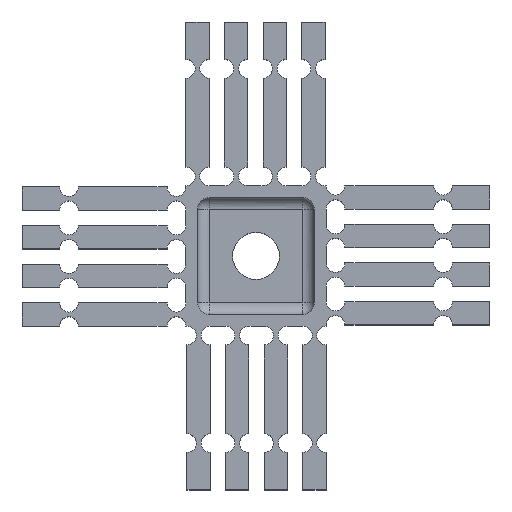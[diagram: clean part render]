
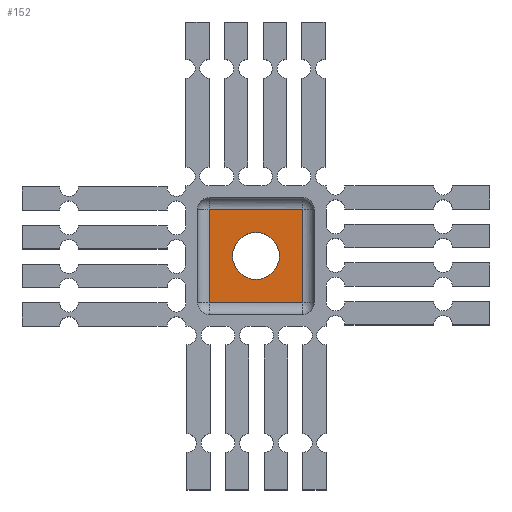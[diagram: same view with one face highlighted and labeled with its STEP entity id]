
A CAD part, top view. The second image highlights one B-rep face of the part: STEP entity #152.
In plain terms, the highlighted planar face has unit normal (0, 0, 1).
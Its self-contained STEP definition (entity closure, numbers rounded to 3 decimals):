
#70=CARTESIAN_POINT('Vertex',(-5.,0.,2.5)) ;
#73=CARTESIAN_POINT('Axis2P3D Location',(0.,0.,2.5)) ;
#77=CARTESIAN_POINT('Vertex',(5.,0.,2.5)) ;
#97=CARTESIAN_POINT('Axis2P3D Location',(0.,0.,2.5)) ;
#109=CARTESIAN_POINT('Axis2P3D Location',(0.,0.,2.5)) ;
#114=CARTESIAN_POINT('Line Origine',(0.,10.,2.5)) ;
#118=CARTESIAN_POINT('Vertex',(-10.,10.,2.5)) ;
#120=CARTESIAN_POINT('Vertex',(10.,10.,2.5)) ;
#123=CARTESIAN_POINT('Line Origine',(-10.,0.,2.5)) ;
#127=CARTESIAN_POINT('Vertex',(-10.,-10.,2.5)) ;
#130=CARTESIAN_POINT('Line Origine',(0.,-10.,2.5)) ;
#134=CARTESIAN_POINT('Vertex',(10.,-10.,2.5)) ;
#137=CARTESIAN_POINT('Line Origine',(10.,0.,2.5)) ;
#74=DIRECTION('Axis2P3D Direction',(0.,0.,1.)) ;
#98=DIRECTION('Axis2P3D Direction',(0.,0.,1.)) ;
#110=DIRECTION('Axis2P3D Direction',(0.,0.,1.)) ;
#111=DIRECTION('Axis2P3D XDirection',(1.,0.,0.)) ;
#115=DIRECTION('Vector Direction',(1.,0.,0.)) ;
#124=DIRECTION('Vector Direction',(0.,-1.,0.)) ;
#131=DIRECTION('Vector Direction',(-1.,0.,0.)) ;
#138=DIRECTION('Vector Direction',(0.,1.,0.)) ;
#75=AXIS2_PLACEMENT_3D('Circle Axis2P3D',#73,#74,$) ;
#99=AXIS2_PLACEMENT_3D('Circle Axis2P3D',#97,#98,$) ;
#112=AXIS2_PLACEMENT_3D('Plane Axis2P3D',#109,#110,#111) ;
#143=ORIENTED_EDGE('',*,*,#122,.F.) ;
#144=ORIENTED_EDGE('',*,*,#129,.F.) ;
#145=ORIENTED_EDGE('',*,*,#136,.F.) ;
#146=ORIENTED_EDGE('',*,*,#141,.F.) ;
#149=ORIENTED_EDGE('',*,*,#101,.F.) ;
#150=ORIENTED_EDGE('',*,*,#79,.F.) ;
#151=FACE_BOUND('',#148,.T.) ;
#116=VECTOR('Line Direction',#115,1.) ;
#125=VECTOR('Line Direction',#124,1.) ;
#132=VECTOR('Line Direction',#131,1.) ;
#139=VECTOR('Line Direction',#138,1.) ;
#152=ADVANCED_FACE('Corps principal',(#147,#151),#113,.T.) ;
#76=CIRCLE('generated circle',#75,5.) ;
#100=CIRCLE('generated circle',#99,5.) ;
#79=EDGE_CURVE('',#71,#78,#76,.T.) ;
#101=EDGE_CURVE('',#78,#71,#100,.T.) ;
#122=EDGE_CURVE('',#119,#121,#117,.T.) ;
#129=EDGE_CURVE('',#128,#119,#126,.F.) ;
#136=EDGE_CURVE('',#135,#128,#133,.T.) ;
#141=EDGE_CURVE('',#121,#135,#140,.F.) ;
#142=EDGE_LOOP('',(#143,#144,#145,#146)) ;
#148=EDGE_LOOP('',(#149,#150)) ;
#147=FACE_OUTER_BOUND('',#142,.T.) ;
#117=LINE('Line',#114,#116) ;
#126=LINE('Line',#123,#125) ;
#133=LINE('Line',#130,#132) ;
#140=LINE('Line',#137,#139) ;
#113=PLANE('Plane',#112) ;
#71=VERTEX_POINT('',#70) ;
#78=VERTEX_POINT('',#77) ;
#119=VERTEX_POINT('',#118) ;
#121=VERTEX_POINT('',#120) ;
#128=VERTEX_POINT('',#127) ;
#135=VERTEX_POINT('',#134) ;
